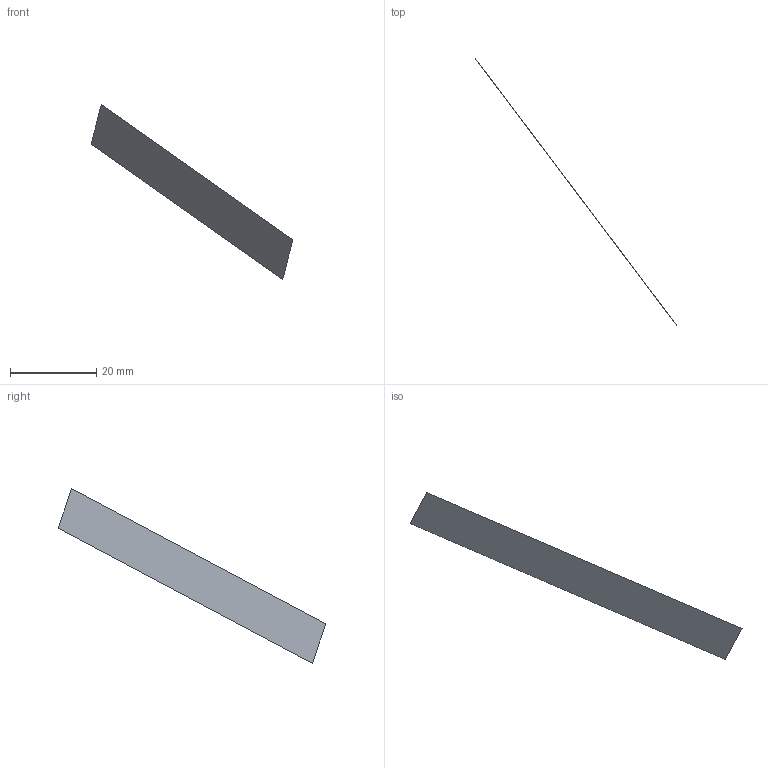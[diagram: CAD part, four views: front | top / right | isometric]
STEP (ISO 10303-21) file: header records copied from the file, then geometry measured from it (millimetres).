
FILE_DESCRIPTION(('FreeCAD Model'),'2;1');
FILE_NAME('Open CASCADE Shape Model','2026-09-11T22:23:41',('FreeCAD'),( 'FreeCAD'),'Open CASCADE STEP processor 7.8','FreeCAD','Unknown');
FILE_SCHEMA(('AUTOMOTIVE_DESIGN { 1 0 10303 214 1 1 1 1 }'));
Length unit declared in the file: millimetre
Products named in the file (1): Open CASCADE STEP translator 7.8 12
Bounding box: 46.67 x 61.93 x 40.46 mm (x, y, z)
Surface area: 800 mm2 (no closed solid volume)
Topology: 0 solids, 1 shells, 1 faces, 4 edges, 4 vertices
Faces by surface type: plane 1
Entity records: 58 total; most frequent: CARTESIAN_POINT 10, DIRECTION 8, ORIENTED_EDGE 4, EDGE_CURVE 4, VERTEX_POINT 4, LINE 4, VECTOR 4, AXIS2_PLACEMENT_3D 2
